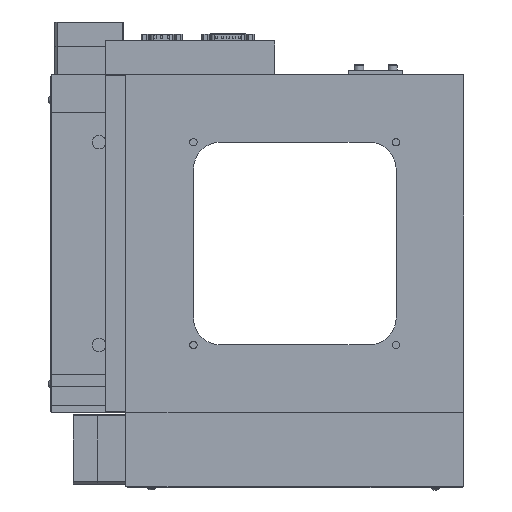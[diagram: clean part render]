
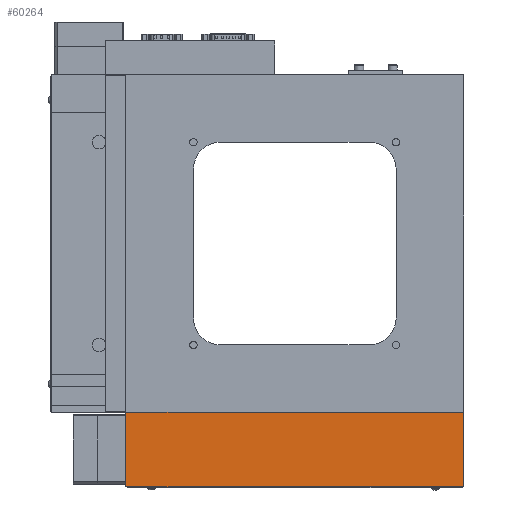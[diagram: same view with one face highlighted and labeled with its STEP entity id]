
A CAD part, front view. The second image highlights one B-rep face of the part: STEP entity #60264.
In plain terms, the highlighted planar face has unit normal (0, -1, 0).
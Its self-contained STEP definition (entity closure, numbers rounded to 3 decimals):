
#376 = VECTOR ( 'NONE', #54856, 1000. ) ;
#745 = LINE ( 'NONE', #52596, #23962 ) ;
#4798 = ORIENTED_EDGE ( 'NONE', *, *, #28859, .F. ) ;
#9456 = EDGE_LOOP ( 'NONE', ( #35939, #10698, #4798, #16570 ) ) ;
#10698 = ORIENTED_EDGE ( 'NONE', *, *, #64850, .T. ) ;
#14723 = VERTEX_POINT ( 'NONE', #31717 ) ;
#16570 = ORIENTED_EDGE ( 'NONE', *, *, #46283, .F. ) ;
#17100 = LINE ( 'NONE', #44674, #60344 ) ;
#17254 = LINE ( 'NONE', #18846, #376 ) ;
#18846 = CARTESIAN_POINT ( 'NONE',  ( 181.47, 0.2, -125. ) ) ;
#23962 = VECTOR ( 'NONE', #37301, 1000. ) ;
#25768 = VERTEX_POINT ( 'NONE', #59192 ) ;
#28255 = DIRECTION ( 'NONE',  ( 0., 0., -1. ) ) ;
#28859 = EDGE_CURVE ( 'NONE', #14723, #29331, #745, .T. ) ;
#29331 = VERTEX_POINT ( 'NONE', #37149 ) ;
#30364 = AXIS2_PLACEMENT_3D ( 'NONE', #49001, #38665, #28255 ) ;
#31717 = CARTESIAN_POINT ( 'NONE',  ( -125., 0.2, -180. ) ) ;
#32603 = VECTOR ( 'NONE', #34473, 1000. ) ;
#34473 = DIRECTION ( 'NONE',  ( -1., 0., 0. ) ) ;
#35939 = ORIENTED_EDGE ( 'NONE', *, *, #53749, .F. ) ;
#36169 = FACE_OUTER_BOUND ( 'NONE', #9456, .T. ) ;
#37149 = CARTESIAN_POINT ( 'NONE',  ( -125., 0.2, -125. ) ) ;
#37301 = DIRECTION ( 'NONE',  ( 0., 0., 1. ) ) ;
#38665 = DIRECTION ( 'NONE',  ( 0., -1., 0. ) ) ;
#39590 = CARTESIAN_POINT ( 'NONE',  ( 181.47, 0.2, -180. ) ) ;
#44674 = CARTESIAN_POINT ( 'NONE',  ( 125., 0.2, -125. ) ) ;
#46283 = EDGE_CURVE ( 'NONE', #49973, #14723, #48844, .T. ) ;
#48844 = LINE ( 'NONE', #39590, #32603 ) ;
#49001 = CARTESIAN_POINT ( 'NONE',  ( 181.47, 0.2, -125. ) ) ;
#49630 = CARTESIAN_POINT ( 'NONE',  ( 125., 0.2, -180. ) ) ;
#49973 = VERTEX_POINT ( 'NONE', #49630 ) ;
#51360 = DIRECTION ( 'NONE',  ( 0., 0., -1. ) ) ;
#52596 = CARTESIAN_POINT ( 'NONE',  ( -125., 0.2, -125. ) ) ;
#53749 = EDGE_CURVE ( 'NONE', #25768, #49973, #17100, .T. ) ;
#54856 = DIRECTION ( 'NONE',  ( -1., 0., 0. ) ) ;
#59192 = CARTESIAN_POINT ( 'NONE',  ( 125., 0.2, -125. ) ) ;
#60264 = ADVANCED_FACE ( 'NONE', ( #36169 ), #64955, .T. ) ;
#60344 = VECTOR ( 'NONE', #51360, 1000. ) ;
#64850 = EDGE_CURVE ( 'NONE', #25768, #29331, #17254, .T. ) ;
#64955 = PLANE ( 'NONE',  #30364 ) ;
